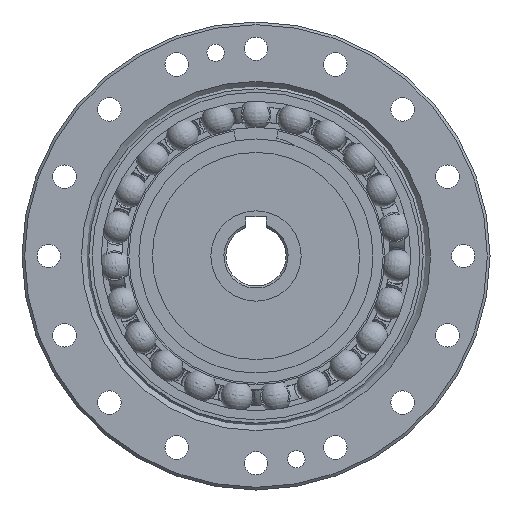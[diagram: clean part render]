
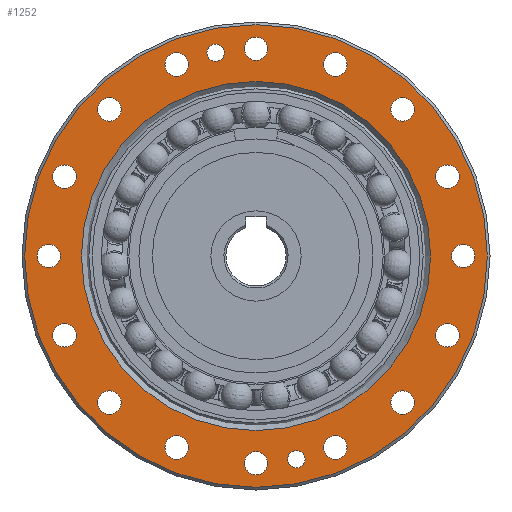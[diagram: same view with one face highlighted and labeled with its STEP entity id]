
A CAD part, left-side view. The second image highlights one B-rep face of the part: STEP entity #1252.
In plain terms, the highlighted planar face has unit normal (-1, 0, 0).
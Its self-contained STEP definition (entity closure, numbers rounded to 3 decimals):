
#1053=PLANE('',#5215);
#1252=ADVANCED_FACE('',(#1481,#1482,#1483,#1484,#1485,#1486,#1487,#1488,
#1489,#1490,#1491,#1492,#1493,#1494,#1495,#1496,#1497,#1498,#1499,#1500),
#1053,.F.);
#1481=FACE_BOUND('',#1893,.T.);
#1482=FACE_BOUND('',#1894,.T.);
#1483=FACE_BOUND('',#1895,.T.);
#1484=FACE_BOUND('',#1896,.T.);
#1485=FACE_BOUND('',#1897,.T.);
#1486=FACE_BOUND('',#1898,.T.);
#1487=FACE_BOUND('',#1899,.T.);
#1488=FACE_BOUND('',#1900,.T.);
#1489=FACE_BOUND('',#1901,.T.);
#1490=FACE_BOUND('',#1902,.T.);
#1491=FACE_BOUND('',#1903,.T.);
#1492=FACE_BOUND('',#1904,.T.);
#1493=FACE_BOUND('',#1905,.T.);
#1494=FACE_BOUND('',#1906,.T.);
#1495=FACE_BOUND('',#1907,.T.);
#1496=FACE_BOUND('',#1908,.T.);
#1497=FACE_BOUND('',#1909,.T.);
#1498=FACE_BOUND('',#1910,.T.);
#1499=FACE_BOUND('',#1911,.T.);
#1500=FACE_BOUND('',#1912,.T.);
#1893=EDGE_LOOP('',(#3094));
#1894=EDGE_LOOP('',(#3095));
#1895=EDGE_LOOP('',(#3096));
#1896=EDGE_LOOP('',(#3097));
#1897=EDGE_LOOP('',(#3098));
#1898=EDGE_LOOP('',(#3099));
#1899=EDGE_LOOP('',(#3100));
#1900=EDGE_LOOP('',(#3101));
#1901=EDGE_LOOP('',(#3102));
#1902=EDGE_LOOP('',(#3103));
#1903=EDGE_LOOP('',(#3104));
#1904=EDGE_LOOP('',(#3105));
#1905=EDGE_LOOP('',(#3106));
#1906=EDGE_LOOP('',(#3107));
#1907=EDGE_LOOP('',(#3108));
#1908=EDGE_LOOP('',(#3109));
#1909=EDGE_LOOP('',(#3110));
#1910=EDGE_LOOP('',(#3111));
#1911=EDGE_LOOP('',(#3112));
#1912=EDGE_LOOP('',(#3113));
#3094=ORIENTED_EDGE('',*,*,#4330,.T.);
#3095=ORIENTED_EDGE('',*,*,#4331,.T.);
#3096=ORIENTED_EDGE('',*,*,#4332,.T.);
#3097=ORIENTED_EDGE('',*,*,#4333,.T.);
#3098=ORIENTED_EDGE('',*,*,#4334,.T.);
#3099=ORIENTED_EDGE('',*,*,#4335,.T.);
#3100=ORIENTED_EDGE('',*,*,#4336,.T.);
#3101=ORIENTED_EDGE('',*,*,#4337,.T.);
#3102=ORIENTED_EDGE('',*,*,#4338,.T.);
#3103=ORIENTED_EDGE('',*,*,#4339,.T.);
#3104=ORIENTED_EDGE('',*,*,#4340,.T.);
#3105=ORIENTED_EDGE('',*,*,#4341,.T.);
#3106=ORIENTED_EDGE('',*,*,#4342,.T.);
#3107=ORIENTED_EDGE('',*,*,#4343,.T.);
#3108=ORIENTED_EDGE('',*,*,#4344,.T.);
#3109=ORIENTED_EDGE('',*,*,#4345,.T.);
#3110=ORIENTED_EDGE('',*,*,#4346,.T.);
#3111=ORIENTED_EDGE('',*,*,#4347,.T.);
#3112=ORIENTED_EDGE('',*,*,#4348,.T.);
#3113=ORIENTED_EDGE('',*,*,#4349,.T.);
#3693=VERTEX_POINT('',#11475);
#3694=VERTEX_POINT('',#11477);
#3695=VERTEX_POINT('',#11479);
#3696=VERTEX_POINT('',#11481);
#3697=VERTEX_POINT('',#11483);
#3698=VERTEX_POINT('',#11485);
#3699=VERTEX_POINT('',#11487);
#3700=VERTEX_POINT('',#11489);
#3701=VERTEX_POINT('',#11491);
#3702=VERTEX_POINT('',#11493);
#3703=VERTEX_POINT('',#11495);
#3704=VERTEX_POINT('',#11497);
#3705=VERTEX_POINT('',#11499);
#3706=VERTEX_POINT('',#11501);
#3707=VERTEX_POINT('',#11503);
#3708=VERTEX_POINT('',#11505);
#3709=VERTEX_POINT('',#11507);
#3710=VERTEX_POINT('',#11509);
#3711=VERTEX_POINT('',#11511);
#3712=VERTEX_POINT('',#11513);
#4330=EDGE_CURVE('',#3693,#3693,#4650,.T.);
#4331=EDGE_CURVE('',#3694,#3694,#4651,.T.);
#4332=EDGE_CURVE('',#3695,#3695,#4652,.T.);
#4333=EDGE_CURVE('',#3696,#3696,#4653,.T.);
#4334=EDGE_CURVE('',#3697,#3697,#4654,.T.);
#4335=EDGE_CURVE('',#3698,#3698,#4655,.T.);
#4336=EDGE_CURVE('',#3699,#3699,#4656,.T.);
#4337=EDGE_CURVE('',#3700,#3700,#4657,.T.);
#4338=EDGE_CURVE('',#3701,#3701,#4658,.T.);
#4339=EDGE_CURVE('',#3702,#3702,#4659,.T.);
#4340=EDGE_CURVE('',#3703,#3703,#4660,.T.);
#4341=EDGE_CURVE('',#3704,#3704,#4661,.T.);
#4342=EDGE_CURVE('',#3705,#3705,#4662,.T.);
#4343=EDGE_CURVE('',#3706,#3706,#4663,.T.);
#4344=EDGE_CURVE('',#3707,#3707,#4664,.T.);
#4345=EDGE_CURVE('',#3708,#3708,#4665,.T.);
#4346=EDGE_CURVE('',#3709,#3709,#4666,.T.);
#4347=EDGE_CURVE('',#3710,#3710,#4667,.T.);
#4348=EDGE_CURVE('',#3711,#3711,#4668,.T.);
#4349=EDGE_CURVE('',#3712,#3712,#4669,.T.);
#4650=CIRCLE('',#5195,26.105);
#4651=CIRCLE('',#5196,34.6);
#4652=CIRCLE('',#5197,1.3);
#4653=CIRCLE('',#5198,1.3);
#4654=CIRCLE('',#5199,1.75);
#4655=CIRCLE('',#5200,1.75);
#4656=CIRCLE('',#5201,1.75);
#4657=CIRCLE('',#5202,1.75);
#4658=CIRCLE('',#5203,1.75);
#4659=CIRCLE('',#5204,1.75);
#4660=CIRCLE('',#5205,1.75);
#4661=CIRCLE('',#5206,1.75);
#4662=CIRCLE('',#5207,1.75);
#4663=CIRCLE('',#5208,1.75);
#4664=CIRCLE('',#5209,1.75);
#4665=CIRCLE('',#5210,1.75);
#4666=CIRCLE('',#5211,1.75);
#4667=CIRCLE('',#5212,1.75);
#4668=CIRCLE('',#5213,1.75);
#4669=CIRCLE('',#5214,1.75);
#5195=AXIS2_PLACEMENT_3D('',#11474,#6181,#6182);
#5196=AXIS2_PLACEMENT_3D('',#11476,#6183,#6184);
#5197=AXIS2_PLACEMENT_3D('',#11478,#6185,#6186);
#5198=AXIS2_PLACEMENT_3D('',#11480,#6187,#6188);
#5199=AXIS2_PLACEMENT_3D('',#11482,#6189,#6190);
#5200=AXIS2_PLACEMENT_3D('',#11484,#6191,#6192);
#5201=AXIS2_PLACEMENT_3D('',#11486,#6193,#6194);
#5202=AXIS2_PLACEMENT_3D('',#11488,#6195,#6196);
#5203=AXIS2_PLACEMENT_3D('',#11490,#6197,#6198);
#5204=AXIS2_PLACEMENT_3D('',#11492,#6199,#6200);
#5205=AXIS2_PLACEMENT_3D('',#11494,#6201,#6202);
#5206=AXIS2_PLACEMENT_3D('',#11496,#6203,#6204);
#5207=AXIS2_PLACEMENT_3D('',#11498,#6205,#6206);
#5208=AXIS2_PLACEMENT_3D('',#11500,#6207,#6208);
#5209=AXIS2_PLACEMENT_3D('',#11502,#6209,#6210);
#5210=AXIS2_PLACEMENT_3D('',#11504,#6211,#6212);
#5211=AXIS2_PLACEMENT_3D('',#11506,#6213,#6214);
#5212=AXIS2_PLACEMENT_3D('',#11508,#6215,#6216);
#5213=AXIS2_PLACEMENT_3D('',#11510,#6217,#6218);
#5214=AXIS2_PLACEMENT_3D('',#11512,#6219,#6220);
#5215=AXIS2_PLACEMENT_3D('',#11514,#6221,#6222);
#6181=DIRECTION('',(1.,0.,0.));
#6182=DIRECTION('',(0.,0.,-1.));
#6183=DIRECTION('',(-1.,0.,0.));
#6184=DIRECTION('',(0.,0.,-1.));
#6185=DIRECTION('',(1.,0.,0.));
#6186=DIRECTION('',(0.,0.,-1.));
#6187=DIRECTION('',(1.,0.,0.));
#6188=DIRECTION('',(0.,0.,-1.));
#6189=DIRECTION('',(1.,0.,0.));
#6190=DIRECTION('',(0.,0.,-1.));
#6191=DIRECTION('',(1.,0.,0.));
#6192=DIRECTION('',(0.,0.,-1.));
#6193=DIRECTION('',(1.,0.,0.));
#6194=DIRECTION('',(0.,0.,-1.));
#6195=DIRECTION('',(1.,0.,0.));
#6196=DIRECTION('',(0.,0.,-1.));
#6197=DIRECTION('',(1.,0.,0.));
#6198=DIRECTION('',(0.,0.,-1.));
#6199=DIRECTION('',(1.,0.,0.));
#6200=DIRECTION('',(0.,0.,-1.));
#6201=DIRECTION('',(1.,0.,0.));
#6202=DIRECTION('',(0.,0.,-1.));
#6203=DIRECTION('',(1.,0.,0.));
#6204=DIRECTION('',(0.,0.,-1.));
#6205=DIRECTION('',(1.,0.,0.));
#6206=DIRECTION('',(0.,0.,-1.));
#6207=DIRECTION('',(1.,0.,0.));
#6208=DIRECTION('',(0.,0.,-1.));
#6209=DIRECTION('',(1.,0.,0.));
#6210=DIRECTION('',(0.,0.,-1.));
#6211=DIRECTION('',(1.,0.,0.));
#6212=DIRECTION('',(0.,0.,-1.));
#6213=DIRECTION('',(1.,0.,0.));
#6214=DIRECTION('',(0.,0.,-1.));
#6215=DIRECTION('',(1.,0.,0.));
#6216=DIRECTION('',(0.,0.,-1.));
#6217=DIRECTION('',(1.,0.,0.));
#6218=DIRECTION('',(0.,0.,-1.));
#6219=DIRECTION('',(1.,0.,0.));
#6220=DIRECTION('',(0.,0.,-1.));
#6221=DIRECTION('',(1.,0.,0.));
#6222=DIRECTION('',(0.,0.,-1.));
#11474=CARTESIAN_POINT('',(0.,0.,0.));
#11475=CARTESIAN_POINT('',(0.,0.,-26.105));
#11476=CARTESIAN_POINT('',(0.,0.,0.));
#11477=CARTESIAN_POINT('',(0.,0.,-34.6));
#11478=CARTESIAN_POINT('',(0.,-6.048,-30.404));
#11479=CARTESIAN_POINT('',(0.,-6.048,-31.704));
#11480=CARTESIAN_POINT('',(0.,6.048,30.404));
#11481=CARTESIAN_POINT('',(0.,6.048,29.104));
#11482=CARTESIAN_POINT('',(0.,-28.64,11.863));
#11483=CARTESIAN_POINT('',(0.,-28.64,10.113));
#11484=CARTESIAN_POINT('',(0.,-21.92,21.92));
#11485=CARTESIAN_POINT('',(0.,-21.92,20.17));
#11486=CARTESIAN_POINT('',(0.,-11.863,28.64));
#11487=CARTESIAN_POINT('',(0.,-11.863,26.89));
#11488=CARTESIAN_POINT('',(0.,0.,31.));
#11489=CARTESIAN_POINT('',(0.,0.,29.25));
#11490=CARTESIAN_POINT('',(0.,11.863,28.64));
#11491=CARTESIAN_POINT('',(0.,11.863,26.89));
#11492=CARTESIAN_POINT('',(0.,21.92,21.92));
#11493=CARTESIAN_POINT('',(0.,21.92,20.17));
#11494=CARTESIAN_POINT('',(0.,28.64,11.863));
#11495=CARTESIAN_POINT('',(0.,28.64,10.113));
#11496=CARTESIAN_POINT('',(0.,31.,0.));
#11497=CARTESIAN_POINT('',(0.,31.,-1.75));
#11498=CARTESIAN_POINT('',(0.,28.64,-11.863));
#11499=CARTESIAN_POINT('',(0.,28.64,-13.613));
#11500=CARTESIAN_POINT('',(0.,21.92,-21.92));
#11501=CARTESIAN_POINT('',(0.,21.92,-23.67));
#11502=CARTESIAN_POINT('',(0.,11.863,-28.64));
#11503=CARTESIAN_POINT('',(0.,11.863,-30.39));
#11504=CARTESIAN_POINT('',(0.,0.,-31.));
#11505=CARTESIAN_POINT('',(0.,0.,-32.75));
#11506=CARTESIAN_POINT('',(0.,-11.863,-28.64));
#11507=CARTESIAN_POINT('',(0.,-11.863,-30.39));
#11508=CARTESIAN_POINT('',(0.,-21.92,-21.92));
#11509=CARTESIAN_POINT('',(0.,-21.92,-23.67));
#11510=CARTESIAN_POINT('',(0.,-28.64,-11.863));
#11511=CARTESIAN_POINT('',(0.,-28.64,-13.613));
#11512=CARTESIAN_POINT('',(0.,-31.,0.));
#11513=CARTESIAN_POINT('',(0.,-31.,-1.75));
#11514=CARTESIAN_POINT('',(0.,0.,35.));
